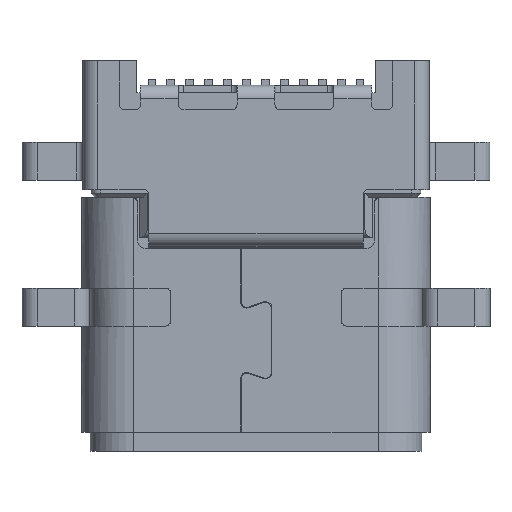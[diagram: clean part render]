
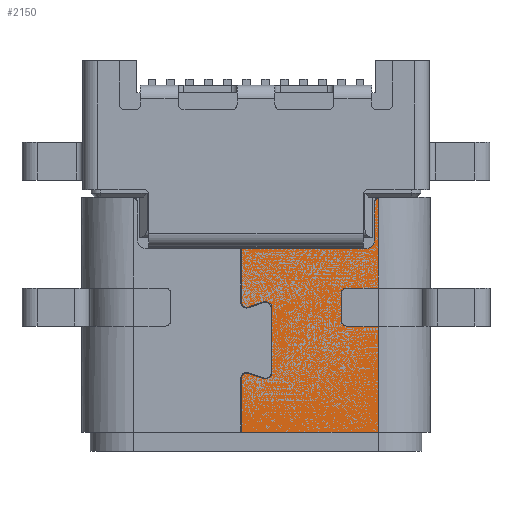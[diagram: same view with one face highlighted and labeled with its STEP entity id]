
A CAD part, top view. The second image highlights one B-rep face of the part: STEP entity #2150.
In plain terms, the highlighted planar face has unit normal (0, 0, 1).
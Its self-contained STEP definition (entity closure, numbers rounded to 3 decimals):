
#199=DIRECTION('',(-1.,0.,0.));
#200=VECTOR('',#199,3.605);
#201=CARTESIAN_POINT('',(955.956,-157.587,0.));
#202=LINE('',#201,#200);
#243=CARTESIAN_POINT('',(956.056,-151.587,0.));
#244=DIRECTION('',(0.,0.,1.));
#245=DIRECTION('',(-0.5,0.866,0.));
#246=AXIS2_PLACEMENT_3D('',#243,#244,#245);
#248=DIRECTION('',(0.,-1.,0.));
#249=VECTOR('',#248,2.373);
#250=CARTESIAN_POINT('',(955.956,-151.413,0.));
#251=LINE('',#250,#249);
#252=DIRECTION('',(-1.,0.,0.));
#253=VECTOR('',#252,0.83);
#254=CARTESIAN_POINT('',(955.956,-153.787,0.));
#255=LINE('',#254,#253);
#256=CARTESIAN_POINT('',(955.126,-153.937,0.));
#257=DIRECTION('',(0.,0.,1.));
#258=DIRECTION('',(0.,1.,0.));
#259=AXIS2_PLACEMENT_3D('',#256,#257,#258);
#261=DIRECTION('',(0.,-1.,0.));
#262=VECTOR('',#261,0.7);
#263=CARTESIAN_POINT('',(954.976,-153.937,0.));
#264=LINE('',#263,#262);
#265=CARTESIAN_POINT('',(955.126,-154.637,0.));
#266=DIRECTION('',(0.,0.,1.));
#267=DIRECTION('',(-1.,0.,0.));
#268=AXIS2_PLACEMENT_3D('',#265,#266,#267);
#270=DIRECTION('',(-1.,0.,0.));
#271=VECTOR('',#270,0.83);
#272=CARTESIAN_POINT('',(955.956,-154.787,0.));
#273=LINE('',#272,#271);
#274=DIRECTION('',(0.,-1.,0.));
#275=VECTOR('',#274,2.8);
#276=CARTESIAN_POINT('',(955.956,-154.787,0.));
#277=LINE('',#276,#275);
#278=DIRECTION('',(0.,1.,0.));
#279=VECTOR('',#278,1.425);
#280=CARTESIAN_POINT('',(952.351,-157.587,0.));
#281=LINE('',#280,#279);
#282=CARTESIAN_POINT('',(952.481,-156.162,0.));
#283=DIRECTION('',(0.,0.,1.));
#284=DIRECTION('',(0.315,0.949,0.));
#285=AXIS2_PLACEMENT_3D('',#282,#283,#284);
#287=DIRECTION('',(0.949,-0.315,0.));
#288=VECTOR('',#287,0.427);
#289=CARTESIAN_POINT('',(952.522,-156.038,0.));
#290=LINE('',#289,#288);
#291=CARTESIAN_POINT('',(952.981,-156.012,0.));
#292=DIRECTION('',(0.,0.,1.));
#293=DIRECTION('',(-0.315,-0.949,0.));
#294=AXIS2_PLACEMENT_3D('',#291,#292,#293);
#296=DIRECTION('',(0.,1.,0.));
#297=VECTOR('',#296,1.7);
#298=CARTESIAN_POINT('',(953.151,-156.012,0.));
#299=LINE('',#298,#297);
#300=CARTESIAN_POINT('',(952.981,-154.312,0.));
#301=DIRECTION('',(0.,0.,1.));
#302=DIRECTION('',(1.,0.,0.));
#303=AXIS2_PLACEMENT_3D('',#300,#301,#302);
#305=DIRECTION('',(-0.949,-0.315,0.));
#306=VECTOR('',#305,0.427);
#307=CARTESIAN_POINT('',(952.928,-154.15,0.));
#308=LINE('',#307,#306);
#309=CARTESIAN_POINT('',(952.481,-154.162,0.));
#310=DIRECTION('',(0.,0.,1.));
#311=DIRECTION('',(-1.,0.,0.));
#312=AXIS2_PLACEMENT_3D('',#309,#310,#311);
#314=DIRECTION('',(0.,1.,0.));
#315=VECTOR('',#314,1.425);
#316=CARTESIAN_POINT('',(952.351,-154.162,0.));
#317=LINE('',#316,#315);
#389=DIRECTION('',(-1.,0.,0.));
#390=VECTOR('',#389,3.305);
#391=CARTESIAN_POINT('',(955.656,-152.737,0.));
#392=LINE('',#391,#390);
#422=CARTESIAN_POINT('',(955.656,-152.537,0.));
#423=DIRECTION('',(0.,0.,-1.));
#424=DIRECTION('',(1.,0.,0.));
#425=AXIS2_PLACEMENT_3D('',#422,#423,#424);
#585=DIRECTION('',(0.,-1.,0.));
#586=VECTOR('',#585,0.95);
#587=CARTESIAN_POINT('',(955.856,-151.587,0.));
#588=LINE('',#587,#586);
#608=CARTESIAN_POINT('',(955.956,-151.413,0.));
#1645=CARTESIAN_POINT('',(955.956,-157.587,0.));
#1646=VERTEX_POINT('',#1645);
#1681=CARTESIAN_POINT('',(952.351,-157.587,0.));
#1683=VERTEX_POINT('',#1681);
#1685=CARTESIAN_POINT('',(952.351,-154.162,0.));
#1686=CARTESIAN_POINT('',(952.351,-152.737,0.));
#1687=VERTEX_POINT('',#1685);
#1688=VERTEX_POINT('',#1686);
#1707=CARTESIAN_POINT('',(952.351,-156.162,0.));
#1708=VERTEX_POINT('',#1707);
#1709=CARTESIAN_POINT('',(952.522,-156.038,0.));
#1710=VERTEX_POINT('',#1709);
#1711=CARTESIAN_POINT('',(952.928,-156.173,0.));
#1712=VERTEX_POINT('',#1711);
#1713=CARTESIAN_POINT('',(953.151,-156.012,0.));
#1714=VERTEX_POINT('',#1713);
#1715=CARTESIAN_POINT('',(953.151,-154.312,0.));
#1716=VERTEX_POINT('',#1715);
#1717=CARTESIAN_POINT('',(952.928,-154.15,0.));
#1718=VERTEX_POINT('',#1717);
#1719=CARTESIAN_POINT('',(952.522,-154.285,0.));
#1720=VERTEX_POINT('',#1719);
#1757=CARTESIAN_POINT('',(955.126,-153.787,0.));
#1758=CARTESIAN_POINT('',(954.976,-153.937,0.));
#1759=VERTEX_POINT('',#1757);
#1760=VERTEX_POINT('',#1758);
#1761=CARTESIAN_POINT('',(954.976,-154.637,0.));
#1762=VERTEX_POINT('',#1761);
#1763=CARTESIAN_POINT('',(955.126,-154.787,0.));
#1764=VERTEX_POINT('',#1763);
#1765=CARTESIAN_POINT('',(955.956,-154.787,0.));
#1766=VERTEX_POINT('',#1765);
#1767=CARTESIAN_POINT('',(955.956,-153.787,0.));
#1768=VERTEX_POINT('',#1767);
#2003=VERTEX_POINT('',#608);
#2004=CARTESIAN_POINT('',(955.856,-151.587,0.));
#2005=VERTEX_POINT('',#2004);
#2012=CARTESIAN_POINT('',(955.656,-152.737,0.));
#2014=VERTEX_POINT('',#2012);
#2016=CARTESIAN_POINT('',(955.856,-152.537,0.));
#2018=VERTEX_POINT('',#2016);
#2102=CARTESIAN_POINT('',(955.956,-145.083,0.));
#2103=DIRECTION('',(0.,0.,1.));
#2104=DIRECTION('',(-1.,0.,0.));
#2105=AXIS2_PLACEMENT_3D('',#2102,#2103,#2104);
#2106=PLANE('',#2105);
#2108=ORIENTED_EDGE('',*,*,#2107,.F.);
#2110=ORIENTED_EDGE('',*,*,#2109,.F.);
#2112=ORIENTED_EDGE('',*,*,#2111,.F.);
#2114=ORIENTED_EDGE('',*,*,#2113,.F.);
#2116=ORIENTED_EDGE('',*,*,#2115,.T.);
#2118=ORIENTED_EDGE('',*,*,#2117,.T.);
#2120=ORIENTED_EDGE('',*,*,#2119,.T.);
#2122=ORIENTED_EDGE('',*,*,#2121,.T.);
#2124=ORIENTED_EDGE('',*,*,#2123,.T.);
#2126=ORIENTED_EDGE('',*,*,#2125,.F.);
#2128=ORIENTED_EDGE('',*,*,#2127,.T.);
#2129=ORIENTED_EDGE('',*,*,#2066,.T.);
#2131=ORIENTED_EDGE('',*,*,#2130,.T.);
#2133=ORIENTED_EDGE('',*,*,#2132,.F.);
#2135=ORIENTED_EDGE('',*,*,#2134,.T.);
#2137=ORIENTED_EDGE('',*,*,#2136,.T.);
#2139=ORIENTED_EDGE('',*,*,#2138,.T.);
#2141=ORIENTED_EDGE('',*,*,#2140,.T.);
#2143=ORIENTED_EDGE('',*,*,#2142,.T.);
#2145=ORIENTED_EDGE('',*,*,#2144,.F.);
#2147=ORIENTED_EDGE('',*,*,#2146,.T.);
#2148=EDGE_LOOP('',(#2108,#2110,#2112,#2114,#2116,#2118,#2120,#2122,#2124,#2126,
#2128,#2129,#2131,#2133,#2135,#2137,#2139,#2141,#2143,#2145,#2147));
#2149=FACE_OUTER_BOUND('',#2148,.F.);
#2150=ADVANCED_FACE('',(#2149),#2106,.T.);
#247=CIRCLE('',#246,0.2);
#260=CIRCLE('',#259,0.15);
#269=CIRCLE('',#268,0.15);
#286=CIRCLE('',#285,0.13);
#295=CIRCLE('',#294,0.17);
#304=CIRCLE('',#303,0.17);
#313=CIRCLE('',#312,0.13);
#426=CIRCLE('',#425,0.2);
#2066=EDGE_CURVE('',#1646,#1683,#202,.T.);
#2107=EDGE_CURVE('',#2014,#1688,#392,.T.);
#2109=EDGE_CURVE('',#2018,#2014,#426,.T.);
#2111=EDGE_CURVE('',#2005,#2018,#588,.T.);
#2113=EDGE_CURVE('',#2003,#2005,#247,.T.);
#2115=EDGE_CURVE('',#2003,#1768,#251,.T.);
#2117=EDGE_CURVE('',#1768,#1759,#255,.T.);
#2119=EDGE_CURVE('',#1759,#1760,#260,.T.);
#2121=EDGE_CURVE('',#1760,#1762,#264,.T.);
#2123=EDGE_CURVE('',#1762,#1764,#269,.T.);
#2125=EDGE_CURVE('',#1766,#1764,#273,.T.);
#2127=EDGE_CURVE('',#1766,#1646,#277,.T.);
#2130=EDGE_CURVE('',#1683,#1708,#281,.T.);
#2132=EDGE_CURVE('',#1710,#1708,#286,.T.);
#2134=EDGE_CURVE('',#1710,#1712,#290,.T.);
#2136=EDGE_CURVE('',#1712,#1714,#295,.T.);
#2138=EDGE_CURVE('',#1714,#1716,#299,.T.);
#2140=EDGE_CURVE('',#1716,#1718,#304,.T.);
#2142=EDGE_CURVE('',#1718,#1720,#308,.T.);
#2144=EDGE_CURVE('',#1687,#1720,#313,.T.);
#2146=EDGE_CURVE('',#1687,#1688,#317,.T.);
